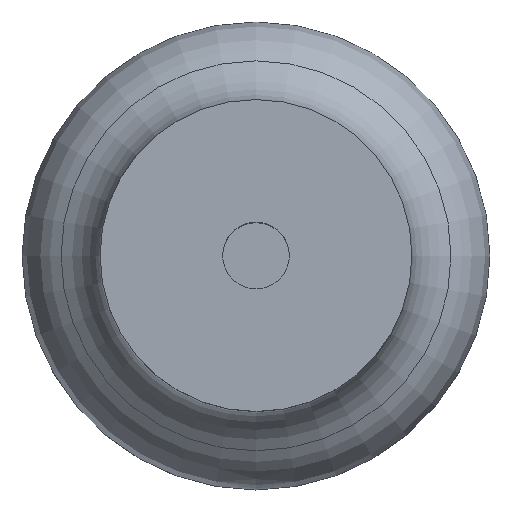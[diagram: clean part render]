
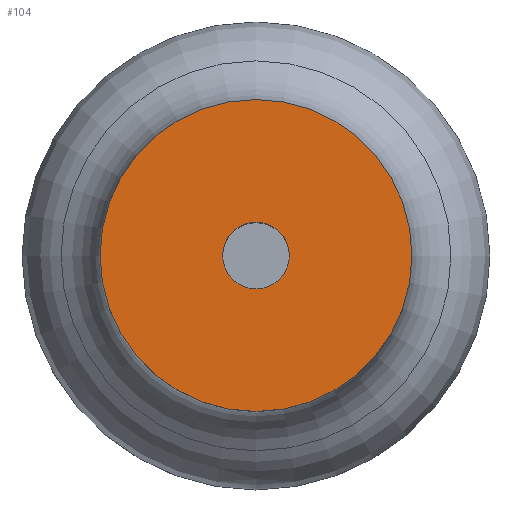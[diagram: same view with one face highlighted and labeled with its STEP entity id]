
A CAD part, top view. The second image highlights one B-rep face of the part: STEP entity #104.
In plain terms, the highlighted planar face has unit normal (0, 0, 1).
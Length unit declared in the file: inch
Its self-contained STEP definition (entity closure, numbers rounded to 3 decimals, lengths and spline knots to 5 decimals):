
#20=PLANE('',#123);
#27=FACE_BOUND('',#52,.T.);
#36=FACE_OUTER_BOUND('',#51,.T.);
#51=EDGE_LOOP('',(#91));
#52=EDGE_LOOP('',(#92));
#53=CIRCLE('',#108,0.0535);
#59=CIRCLE('',#119,0.25);
#61=VERTEX_POINT('',#162);
#67=VERTEX_POINT('',#179);
#69=EDGE_CURVE('',#61,#61,#53,.T.);
#75=EDGE_CURVE('',#67,#67,#59,.T.);
#91=ORIENTED_EDGE('',*,*,#75,.T.);
#92=ORIENTED_EDGE('',*,*,#69,.T.);
#104=ADVANCED_FACE('',(#36,#27),#20,.T.);
#108=AXIS2_PLACEMENT_3D('',#163,#128,#129);
#119=AXIS2_PLACEMENT_3D('',#180,#150,#151);
#123=AXIS2_PLACEMENT_3D('',#185,#158,#159);
#128=DIRECTION('center_axis',(0.,0.,-1.));
#129=DIRECTION('ref_axis',(0.,-1.,0.));
#150=DIRECTION('center_axis',(0.,0.,1.));
#151=DIRECTION('ref_axis',(1.,0.,0.));
#158=DIRECTION('center_axis',(0.,0.,1.));
#159=DIRECTION('ref_axis',(1.,0.,0.));
#162=CARTESIAN_POINT('',(0.,-0.0535,0.));
#163=CARTESIAN_POINT('Origin',(0.,0.,0.));
#179=CARTESIAN_POINT('',(0.,-0.25,0.));
#180=CARTESIAN_POINT('Origin',(0.,0.,0.));
#185=CARTESIAN_POINT('Origin',(0.,0.,0.));
